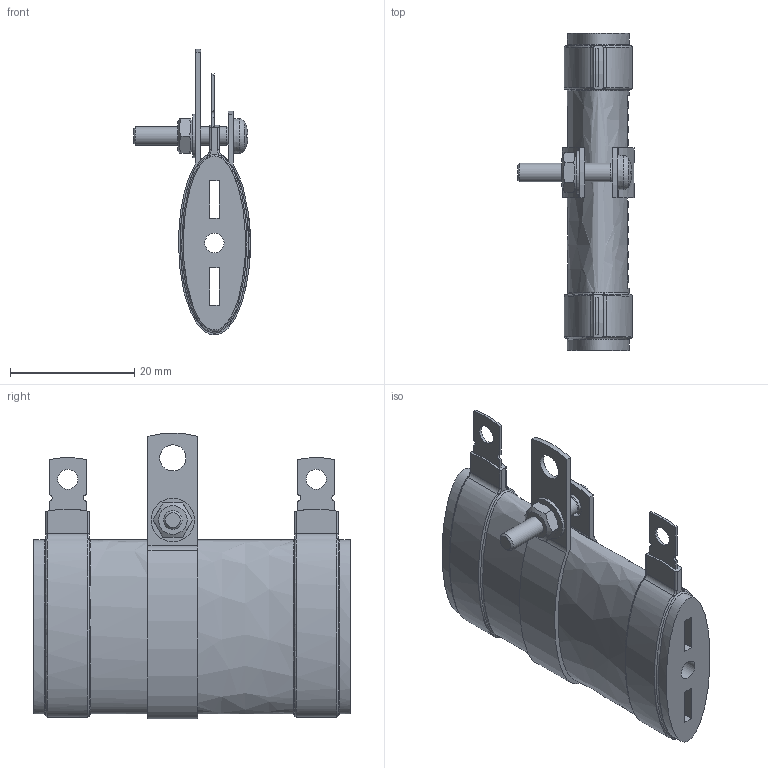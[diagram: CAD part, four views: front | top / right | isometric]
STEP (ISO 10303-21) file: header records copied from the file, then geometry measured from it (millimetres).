
FILE_DESCRIPTION(/* description */ (''),/* implementation_level */ '2;1');
FILE_NAME(/* name */ 'C:\_Vault\Dati\CATALOGO\RCE\RCER-RSER 31-91\CER0031.stp',/* time_stamp */ '2014-01-22T16:32:27+01:00',/* author */ ('stefano'),/* organization */ (''),/* preprocessor_version */ 'ST-DEVELOPER v15.2',/* originating_system */ 'Autodesk Inventor 2014',/* authorisation */ '');
FILE_SCHEMA (('AUTOMOTIVE_DESIGN { 1 0 10303 214 3 1 1 }'));
Length unit declared in the file: millimetre
Products named in the file (1): CER0031
Bounding box: 18.8 x 51 x 46 mm (x, y, z)
Volume: 10847 mm3; surface area: 7218.1 mm2
Topology: 23 solids, 23 shells, 334 faces, 778 edges, 486 vertices
Faces by surface type: plane 213, bspline 52, cylinder 39, cone 16, torus 13, sphere 1
Full cylindrical faces by diameter (mm): 2.729 x1, 3 x2, 3.1 x1, 3.2 x3, 4.2 x3, 7 x1
Entity records: 11716 total; most frequent: CARTESIAN_POINT 4033, ORIENTED_EDGE 1546, DIRECTION 1445, EDGE_CURVE 751, AXIS2_PLACEMENT_3D 527, VERTEX_POINT 483, EDGE_LOOP 394, LINE 391
